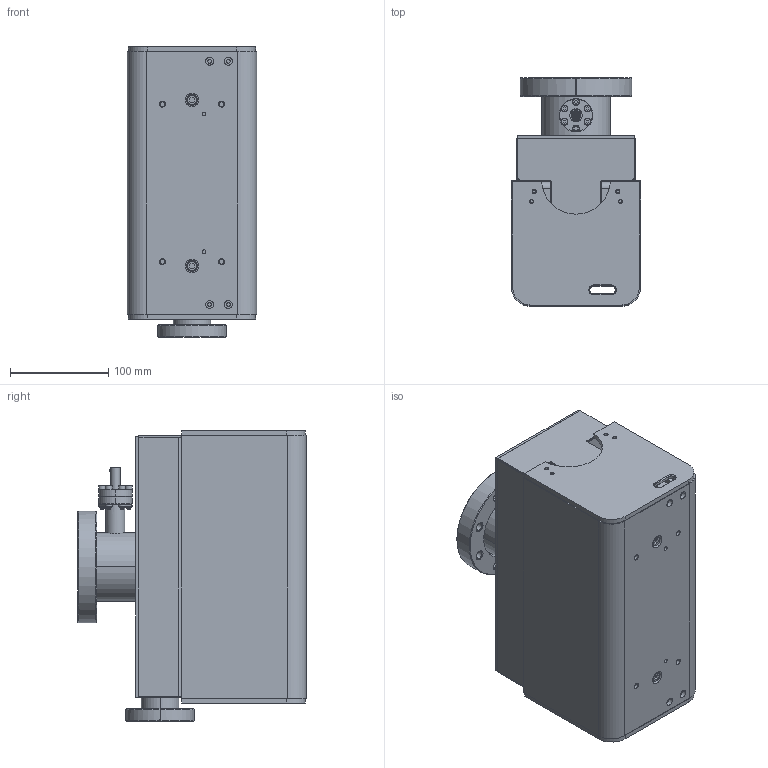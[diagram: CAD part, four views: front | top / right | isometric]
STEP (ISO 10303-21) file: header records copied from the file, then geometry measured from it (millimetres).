
FILE_DESCRIPTION((''),'2;1');
FILE_NAME('75S-XX-4D-XX','2020-12-02T15:05:06',('langebj'),('Gamma Vacuum, LLC'),'CREO PARAMETRIC BY PTC INC, 2020044','CREO PARAMETRIC BY PTC INC, 2020044','');
FILE_SCHEMA(('AUTOMOTIVE_DESIGN { 1 0 10303 214 1 1 1 1 }'));
Products named in the file (1): 75S-XX-4D-XX
Bounding box: 131.2 x 231.66 x 295.08 mm (x, y, z)
Surface area: 690974.6 mm2 (no closed solid volume)
Topology: 0 solids, 0 shells, 1145 faces, 5756 edges, 5722 vertices
Faces by surface type: cylinder 473, plane 416, cone 204, torus 44, bspline 6, sphere 2
Entity records: 85421 total; most frequent: CARTESIAN_POINT 21505, DIRECTION 10970, TRIMMED_CURVE 7338, VECTOR 6001, LINE 6001, DEFINITIONAL_REPRESENTATION 5690, PCURVE 5690, COMPOSITE_CURVE_SEGMENT 5690
